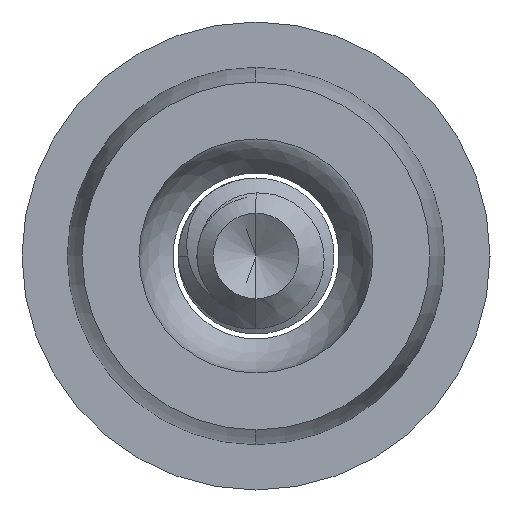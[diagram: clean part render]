
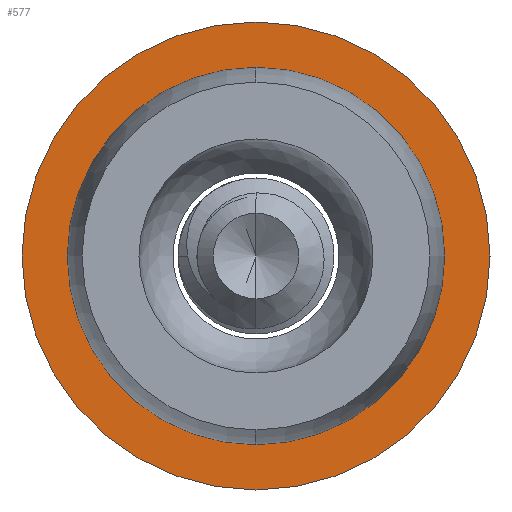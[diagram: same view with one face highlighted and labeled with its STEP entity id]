
A CAD part, left-side view. The second image highlights one B-rep face of the part: STEP entity #577.
In plain terms, the highlighted planar face has unit normal (-1, 0, 0).
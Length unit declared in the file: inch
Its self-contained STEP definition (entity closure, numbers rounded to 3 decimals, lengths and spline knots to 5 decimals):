
#142 = EDGE_LOOP ( 'NONE', ( #2265, #2036 ) ) ;
#270 = AXIS2_PLACEMENT_3D ( 'NONE', #661, #2924, #991 ) ;
#306 = DIRECTION ( 'NONE',  ( -1., 0., 0. ) ) ;
#409 = EDGE_CURVE ( 'NONE', #2335, #904, #1171, .T. ) ;
#484 = AXIS2_PLACEMENT_3D ( 'NONE', #2559, #306, #2573 ) ;
#577 = ADVANCED_FACE ( 'NONE', ( #2186, #3795 ), #2246, .T. ) ;
#661 = CARTESIAN_POINT ( 'NONE',  ( -1., 0., 0. ) ) ;
#707 = EDGE_CURVE ( 'NONE', #2175, #1071, #1227, .T. ) ;
#845 = EDGE_LOOP ( 'NONE', ( #3794, #1558 ) ) ;
#890 = DIRECTION ( 'NONE',  ( -1., 0., 0. ) ) ;
#904 = VERTEX_POINT ( 'NONE', #3572 ) ;
#991 = DIRECTION ( 'NONE',  ( 0., 0., 1. ) ) ;
#1071 = VERTEX_POINT ( 'NONE', #1086 ) ;
#1086 = CARTESIAN_POINT ( 'NONE',  ( -1., 0., 0.375 ) ) ;
#1089 = DIRECTION ( 'NONE',  ( -1., 0., 0. ) ) ;
#1171 = CIRCLE ( 'NONE', #3702, 0.3025 ) ;
#1211 = CARTESIAN_POINT ( 'NONE',  ( -1., 0., 0. ) ) ;
#1227 = CIRCLE ( 'NONE', #270, 0.375 ) ;
#1533 = DIRECTION ( 'NONE',  ( 0., 0., 1. ) ) ;
#1545 = CARTESIAN_POINT ( 'NONE',  ( -1., 0., -0.3025 ) ) ;
#1558 = ORIENTED_EDGE ( 'NONE', *, *, #409, .F. ) ;
#1622 = EDGE_CURVE ( 'NONE', #904, #2335, #2079, .T. ) ;
#2036 = ORIENTED_EDGE ( 'NONE', *, *, #707, .T. ) ;
#2079 = CIRCLE ( 'NONE', #3561, 0.3025 ) ;
#2126 = AXIS2_PLACEMENT_3D ( 'NONE', #1211, #3458, #1533 ) ;
#2175 = VERTEX_POINT ( 'NONE', #2908 ) ;
#2186 = FACE_BOUND ( 'NONE', #845, .T. ) ;
#2246 = PLANE ( 'NONE',  #484 ) ;
#2265 = ORIENTED_EDGE ( 'NONE', *, *, #3867, .T. ) ;
#2335 = VERTEX_POINT ( 'NONE', #1545 ) ;
#2559 = CARTESIAN_POINT ( 'NONE',  ( -1., 0., -0.3025 ) ) ;
#2573 = DIRECTION ( 'NONE',  ( 0., 0., 1. ) ) ;
#2824 = CARTESIAN_POINT ( 'NONE',  ( -1., 0., 0. ) ) ;
#2908 = CARTESIAN_POINT ( 'NONE',  ( -1., 0., -0.375 ) ) ;
#2924 = DIRECTION ( 'NONE',  ( -1., 0., 0. ) ) ;
#3025 = CARTESIAN_POINT ( 'NONE',  ( -1., 0., 0. ) ) ;
#3157 = DIRECTION ( 'NONE',  ( 0., 0., 1. ) ) ;
#3338 = DIRECTION ( 'NONE',  ( 0., 0., 1. ) ) ;
#3458 = DIRECTION ( 'NONE',  ( -1., 0., 0. ) ) ;
#3537 = CIRCLE ( 'NONE', #2126, 0.375 ) ;
#3561 = AXIS2_PLACEMENT_3D ( 'NONE', #3025, #1089, #3338 ) ;
#3572 = CARTESIAN_POINT ( 'NONE',  ( -1., 0., 0.3025 ) ) ;
#3702 = AXIS2_PLACEMENT_3D ( 'NONE', #2824, #890, #3157 ) ;
#3794 = ORIENTED_EDGE ( 'NONE', *, *, #1622, .F. ) ;
#3795 = FACE_OUTER_BOUND ( 'NONE', #142, .T. ) ;
#3867 = EDGE_CURVE ( 'NONE', #1071, #2175, #3537, .T. ) ;
